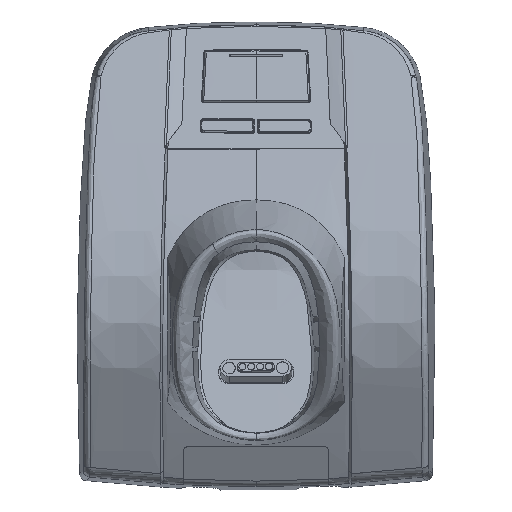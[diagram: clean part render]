
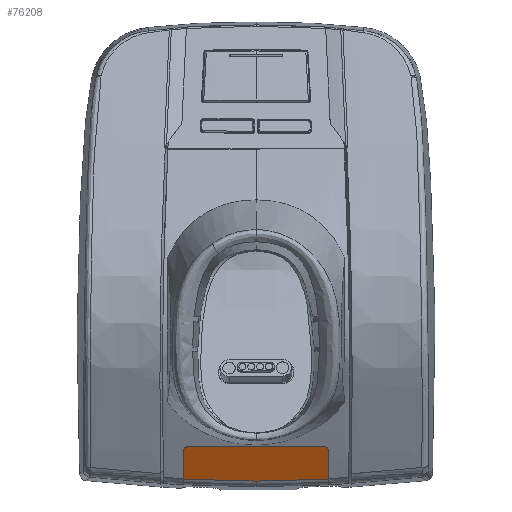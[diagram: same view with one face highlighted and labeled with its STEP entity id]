
A CAD part, top view. The second image highlights one B-rep face of the part: STEP entity #76208.
In plain terms, the highlighted planar face has unit normal (0, -0.476, 0.879).
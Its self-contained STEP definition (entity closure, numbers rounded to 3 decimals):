
#47295=DIRECTION('',(0.,0.879,0.476));
#47296=VECTOR('',#47295,8.932);
#47297=CARTESIAN_POINT('',(-80.975,2.609,
-56.864));
#47298=LINE('',#47297,#47296);
#47352=CARTESIAN_POINT('',(-79.525,11.737,
-51.917));
#47353=CARTESIAN_POINT('',(-79.562,11.737,
-51.917));
#47354=CARTESIAN_POINT('',(-79.635,11.735,
-51.918));
#47355=CARTESIAN_POINT('',(-79.746,11.724,
-51.924));
#47356=CARTESIAN_POINT('',(-79.857,11.705,
-51.934));
#47357=CARTESIAN_POINT('',(-79.967,11.678,
-51.949));
#47358=CARTESIAN_POINT('',(-80.075,11.643,
-51.968));
#47359=CARTESIAN_POINT('',(-80.18,11.601,
-51.991));
#47360=CARTESIAN_POINT('',(-80.28,11.552,
-52.017));
#47361=CARTESIAN_POINT('',(-80.376,11.496,
-52.048));
#47362=CARTESIAN_POINT('',(-80.467,11.433,
-52.082));
#47363=CARTESIAN_POINT('',(-80.552,11.364,
-52.119));
#47364=CARTESIAN_POINT('',(-80.63,11.289,
-52.16));
#47365=CARTESIAN_POINT('',(-80.701,11.21,
-52.203));
#47366=CARTESIAN_POINT('',(-80.765,11.125,
-52.249));
#47367=CARTESIAN_POINT('',(-80.821,11.036,
-52.297));
#47368=CARTESIAN_POINT('',(-80.869,10.944,
-52.347));
#47369=CARTESIAN_POINT('',(-80.908,10.85,
-52.398));
#47370=CARTESIAN_POINT('',(-80.939,10.753,
-52.45));
#47371=CARTESIAN_POINT('',(-80.96,10.656,
-52.503));
#47372=CARTESIAN_POINT('',(-80.973,10.559,
-52.556));
#47373=CARTESIAN_POINT('',(-80.975,10.495,
-52.59));
#47374=CARTESIAN_POINT('',(-80.975,10.463,
-52.608));
#47376=DIRECTION('',(-1.,0.,0.));
#47377=VECTOR('',#47376,37.998);
#47378=CARTESIAN_POINT('',(-41.527,11.737,
-51.917));
#47379=LINE('',#47378,#47377);
#47380=CARTESIAN_POINT('',(-41.527,11.737,
-51.917));
#47381=CARTESIAN_POINT('',(-41.507,11.737,
-51.917));
#47382=CARTESIAN_POINT('',(-41.468,11.737,
-51.917));
#47383=CARTESIAN_POINT('',(-41.409,11.733,
-51.919));
#47384=CARTESIAN_POINT('',(-41.35,11.728,
-51.922));
#47385=CARTESIAN_POINT('',(-41.29,11.721,
-51.926));
#47386=CARTESIAN_POINT('',(-41.232,11.711,
-51.931));
#47387=CARTESIAN_POINT('',(-41.174,11.7,
-51.937));
#47388=CARTESIAN_POINT('',(-41.117,11.686,
-51.945));
#47389=CARTESIAN_POINT('',(-41.061,11.671,
-51.953));
#47390=CARTESIAN_POINT('',(-41.006,11.653,
-51.962));
#47391=CARTESIAN_POINT('',(-40.953,11.634,
-51.973));
#47392=CARTESIAN_POINT('',(-40.899,11.613,
-51.984));
#47393=CARTESIAN_POINT('',(-40.846,11.589,
-51.997));
#47394=CARTESIAN_POINT('',(-40.793,11.563,
-52.011));
#47395=CARTESIAN_POINT('',(-40.742,11.535,
-52.026));
#47396=CARTESIAN_POINT('',(-40.692,11.506,
-52.042));
#47397=CARTESIAN_POINT('',(-40.643,11.474,
-52.059));
#47398=CARTESIAN_POINT('',(-40.596,11.442,
-52.077));
#47399=CARTESIAN_POINT('',(-40.551,11.407,
-52.096));
#47400=CARTESIAN_POINT('',(-40.509,11.372,
-52.115));
#47401=CARTESIAN_POINT('',(-40.468,11.336,
-52.134));
#47402=CARTESIAN_POINT('',(-40.429,11.298,
-52.155));
#47403=CARTESIAN_POINT('',(-40.391,11.258,
-52.177));
#47404=CARTESIAN_POINT('',(-40.355,11.216,
-52.199));
#47405=CARTESIAN_POINT('',(-40.321,11.174,
-52.222));
#47406=CARTESIAN_POINT('',(-40.289,11.13,
-52.246));
#47407=CARTESIAN_POINT('',(-40.259,11.085,
-52.27));
#47408=CARTESIAN_POINT('',(-40.231,11.039,
-52.295));
#47409=CARTESIAN_POINT('',(-40.205,10.992,
-52.321));
#47410=CARTESIAN_POINT('',(-40.182,10.944,
-52.347));
#47411=CARTESIAN_POINT('',(-40.161,10.896,
-52.373));
#47412=CARTESIAN_POINT('',(-40.142,10.846,
-52.4));
#47413=CARTESIAN_POINT('',(-40.127,10.802,
-52.424));
#47414=CARTESIAN_POINT('',(-40.116,10.763,
-52.445));
#47415=CARTESIAN_POINT('',(-40.107,10.728,
-52.464));
#47416=CARTESIAN_POINT('',(-40.1,10.697,
-52.481));
#47417=CARTESIAN_POINT('',(-40.094,10.669,
-52.496));
#47418=CARTESIAN_POINT('',(-40.09,10.644,
-52.509));
#47419=CARTESIAN_POINT('',(-40.086,10.621,
-52.522));
#47420=CARTESIAN_POINT('',(-40.084,10.601,
-52.533));
#47421=CARTESIAN_POINT('',(-40.081,10.582,
-52.543));
#47422=CARTESIAN_POINT('',(-40.08,10.565,
-52.552));
#47423=CARTESIAN_POINT('',(-40.078,10.55,
-52.56));
#47424=CARTESIAN_POINT('',(-40.077,10.536,
-52.568));
#47425=CARTESIAN_POINT('',(-40.077,10.523,
-52.575));
#47426=CARTESIAN_POINT('',(-40.076,10.512,
-52.581));
#47427=CARTESIAN_POINT('',(-40.076,10.502,
-52.587));
#47428=CARTESIAN_POINT('',(-40.075,10.492,
-52.592));
#47429=CARTESIAN_POINT('',(-40.075,10.483,
-52.596));
#47430=CARTESIAN_POINT('',(-40.075,10.476,
-52.601));
#47431=CARTESIAN_POINT('',(-40.075,10.469,
-52.604));
#47432=CARTESIAN_POINT('',(-40.075,10.465,
-52.607));
#47433=CARTESIAN_POINT('',(-40.075,10.463,
-52.608));
#47545=DIRECTION('',(0.,-0.879,-0.476));
#47546=VECTOR('',#47545,8.932);
#47547=CARTESIAN_POINT('',(-40.075,10.463,
-52.608));
#47548=LINE('',#47547,#47546);
#52659=CARTESIAN_POINT('',(-40.075,2.609,
-56.864));
#52660=CARTESIAN_POINT('',(-46.884,2.25,
-57.059));
#52661=CARTESIAN_POINT('',(-53.704,2.068,
-57.157));
#52662=CARTESIAN_POINT('',(-60.525,2.063,
-57.16));
#52688=CARTESIAN_POINT('',(-80.975,2.609,
-56.864));
#52690=CARTESIAN_POINT('',(-60.525,2.063,
-57.16));
#52691=CARTESIAN_POINT('',(-67.346,2.068,
-57.157));
#52692=CARTESIAN_POINT('',(-74.167,2.25,
-57.059));
#52693=CARTESIAN_POINT('',(-80.975,2.609,
-56.864));
#54801=VERTEX_POINT('',#52688);
#55283=CARTESIAN_POINT('',(-41.527,11.737,
-51.917));
#55284=VERTEX_POINT('',#55283);
#55285=CARTESIAN_POINT('',(-79.525,11.737,
-51.917));
#55286=VERTEX_POINT('',#55285);
#55287=VERTEX_POINT('',#47433);
#55288=CARTESIAN_POINT('',(-40.075,2.609,
-56.864));
#55289=VERTEX_POINT('',#55288);
#55290=VERTEX_POINT('',#52662);
#55291=CARTESIAN_POINT('',(-80.975,10.463,
-52.608));
#55292=VERTEX_POINT('',#55291);
#76188=CARTESIAN_POINT('',(564.995,541.379,235.137));
#76189=DIRECTION('',(0.,-0.476,0.879));
#76190=DIRECTION('',(-1.,0.,0.));
#76191=AXIS2_PLACEMENT_3D('',#76188,#76189,#76190);
#76192=PLANE('',#76191);
#76194=ORIENTED_EDGE('',*,*,#76193,.T.);
#76196=ORIENTED_EDGE('',*,*,#76195,.T.);
#76198=ORIENTED_EDGE('',*,*,#76197,.T.);
#76200=ORIENTED_EDGE('',*,*,#76199,.T.);
#76201=ORIENTED_EDGE('',*,*,#76177,.T.);
#76203=ORIENTED_EDGE('',*,*,#76202,.F.);
#76205=ORIENTED_EDGE('',*,*,#76204,.F.);
#76206=EDGE_LOOP('',(#76194,#76196,#76198,#76200,#76201,#76203,#76205));
#76207=FACE_OUTER_BOUND('',#76206,.F.);
#76208=ADVANCED_FACE('',(#76207),#76192,.T.);
#47375=B_SPLINE_CURVE_WITH_KNOTS('',3,(#47352,#47353,#47354,#47355,#47356,
#47357,#47358,#47359,#47360,#47361,#47362,#47363,#47364,#47365,#47366,#47367,
#47368,#47369,#47370,#47371,#47372,#47373,#47374),.UNSPECIFIED.,.F.,.F.,(4,1,1,
1,1,1,1,1,1,1,1,1,1,1,1,1,1,1,1,1,4),(0.,0.05,0.1,0.15,0.2,0.25,
0.3,0.35,0.4,0.45,0.5,0.55,0.6,0.65,0.7,0.75,0.8,0.85,
0.9,0.95,1.),.UNSPECIFIED.);
#47434=B_SPLINE_CURVE_WITH_KNOTS('',3,(#47380,#47381,#47382,#47383,#47384,
#47385,#47386,#47387,#47388,#47389,#47390,#47391,#47392,#47393,#47394,#47395,
#47396,#47397,#47398,#47399,#47400,#47401,#47402,#47403,#47404,#47405,#47406,
#47407,#47408,#47409,#47410,#47411,#47412,#47413,#47414,#47415,#47416,#47417,
#47418,#47419,#47420,#47421,#47422,#47423,#47424,#47425,#47426,#47427,#47428,
#47429,#47430,#47431,#47432,#47433),.UNSPECIFIED.,.F.,.F.,(4,1,1,1,1,1,1,1,1,1,
1,1,1,1,1,1,1,1,1,1,1,1,1,1,1,1,1,1,1,1,1,1,1,1,1,1,1,1,1,1,1,1,1,1,1,1,1,1,1,1,
1,4),(0.,0.02,0.039,0.059,
0.078,0.098,0.118,0.137,
0.157,0.176,0.196,0.216,
0.235,0.255,0.275,0.294,
0.314,0.333,0.353,0.373,
0.392,0.412,0.431,0.451,
0.471,0.49,0.51,0.529,
0.549,0.569,0.588,0.608,
0.627,0.647,0.667,0.686,
0.706,0.725,0.745,0.765,
0.784,0.804,0.824,0.843,
0.863,0.882,0.902,0.922,
0.941,0.961,0.98,1.),.UNSPECIFIED.);
#52663=B_SPLINE_CURVE_WITH_KNOTS('',3,(#52659,#52660,#52661,#52662),
.UNSPECIFIED.,.F.,.F.,(4,4),(0.,1.),.UNSPECIFIED.);
#52694=B_SPLINE_CURVE_WITH_KNOTS('',3,(#52690,#52691,#52692,#52693),
.UNSPECIFIED.,.F.,.F.,(4,4),(0.,1.),.UNSPECIFIED.);
#76177=EDGE_CURVE('',#54801,#55292,#47298,.T.);
#76193=EDGE_CURVE('',#55284,#55287,#47434,.T.);
#76195=EDGE_CURVE('',#55287,#55289,#47548,.T.);
#76197=EDGE_CURVE('',#55289,#55290,#52663,.T.);
#76199=EDGE_CURVE('',#55290,#54801,#52694,.T.);
#76202=EDGE_CURVE('',#55286,#55292,#47375,.T.);
#76204=EDGE_CURVE('',#55284,#55286,#47379,.T.);
